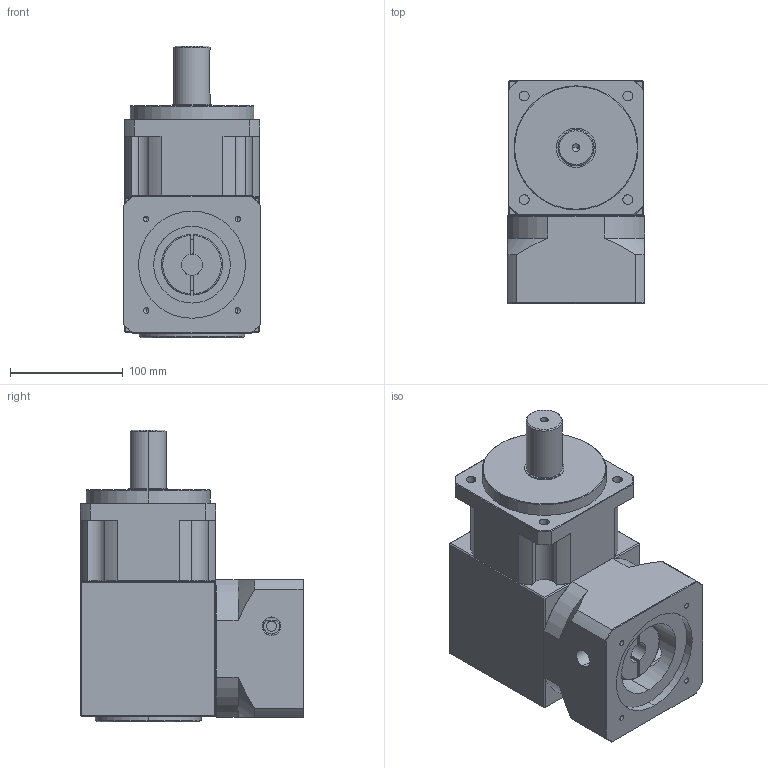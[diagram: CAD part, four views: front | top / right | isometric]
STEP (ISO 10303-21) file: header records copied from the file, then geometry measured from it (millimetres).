
FILE_DESCRIPTION (( 'STEP AP203' ), '1' );
FILE_NAME ('KHL120-L1£r95PCD£r115M6.STEP', '2014-03-24T06:48:46', ( 'KELLY' ), ( '' ), 'SwSTEP 2.0', 'SolidWorks 2012', '' );
FILE_SCHEMA (( 'CONFIG_CONTROL_DESIGN' ));
Length unit declared in the file: millimetre
Products named in the file (1): KHL120-L1｣r95PCD｣r115M6
Bounding box: 122 x 198 x 259 mm (x, y, z)
Volume: 3678493.5 mm3; surface area: 251456.3 mm2
Topology: 3 solids, 3 shells, 209 faces, 501 edges, 302 vertices
Faces by surface type: plane 80, cylinder 79, cone 46, torus 4
Entity records: 6641 total; most frequent: CARTESIAN_POINT 1727, DIRECTION 1032, ORIENTED_EDGE 982, EDGE_CURVE 491, AXIS2_PLACEMENT_3D 401, VERTEX_POINT 302, EDGE_LOOP 241, LINE 230
